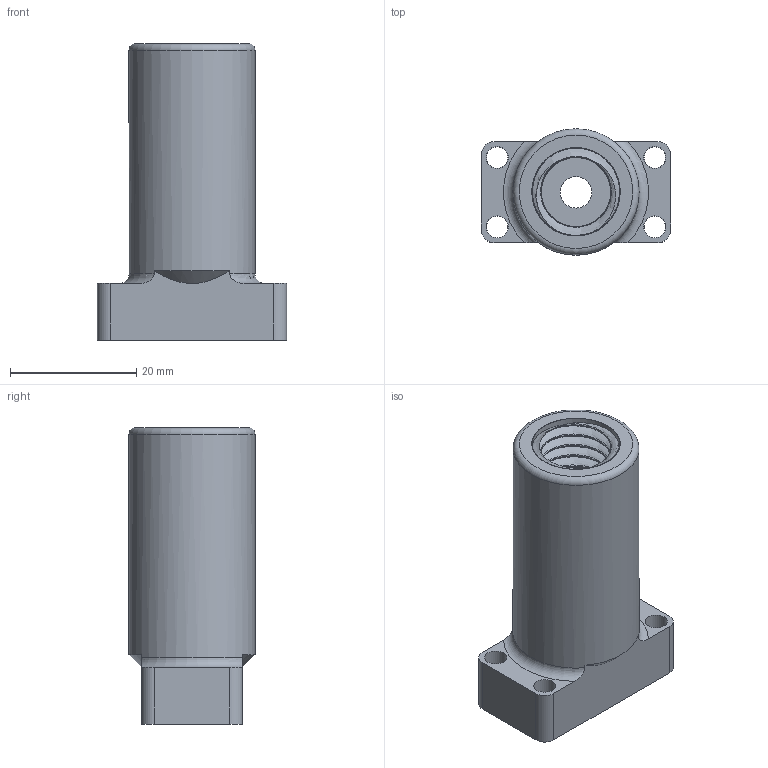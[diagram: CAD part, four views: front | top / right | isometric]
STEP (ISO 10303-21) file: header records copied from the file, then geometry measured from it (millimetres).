
FILE_DESCRIPTION(/* description */ (''),/* implementation_level */ '2;1');
FILE_NAME(/* name */ 'V:\Flow\Inventor\PEEK\BPR\BPR oben.stp',/* time_stamp */ '2019-12-20T10:04:20+01:00',/* author */ ('JN'),/* organization */ (''),/* preprocessor_version */ 'ST-DEVELOPER v17',/* originating_system */ 'Autodesk Inventor 2018',/* authorisation */ '');
FILE_SCHEMA (('AUTOMOTIVE_DESIGN { 1 0 10303 214 3 1 1 }'));
Length unit declared in the file: millimetre
Products named in the file (1): BPR oben
Bounding box: 30 x 20 x 47 mm (x, y, z)
Volume: 11102.9 mm3; surface area: 12005.1 mm2
Topology: 2 solids, 2 shells, 73 faces, 183 edges, 119 vertices
Faces by surface type: cylinder 45, plane 17, bspline 6, torus 3, cone 2
Full cylindrical faces by diameter (mm): 3.4 x4, 3.5 x4, 5 x1, 11.034 x27, 14 x2, 20 x1
Entity records: 13127 total; most frequent: CARTESIAN_POINT 11432, ORIENTED_EDGE 366, DIRECTION 296, EDGE_CURVE 183, VERTEX_POINT 119, AXIS2_PLACEMENT_3D 116, EDGE_LOOP 90, FACE_OUTER_BOUND 73
